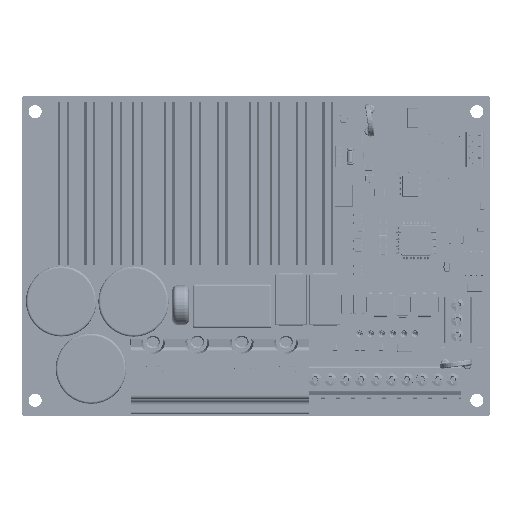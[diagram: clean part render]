
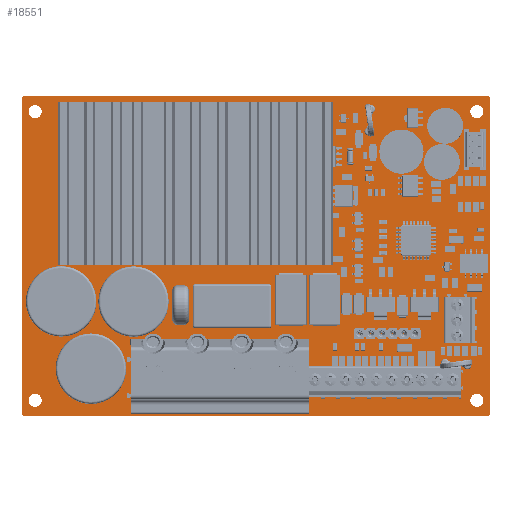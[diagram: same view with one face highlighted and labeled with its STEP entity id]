
A CAD part, top view. The second image highlights one B-rep face of the part: STEP entity #18551.
In plain terms, the highlighted planar face has unit normal (0, 0, 1).
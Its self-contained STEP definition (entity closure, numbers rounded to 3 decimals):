
#18551=ADVANCED_FACE('',(#38407,#38408,#38409,#38410,#38411,#38412,#38413),#38414,.T.);
#38407=FACE_BOUND('',#85328,.T.);
#38408=FACE_BOUND('',#85329,.T.);
#38409=FACE_BOUND('',#85330,.T.);
#38410=FACE_BOUND('',#85331,.T.);
#38411=FACE_BOUND('',#85332,.T.);
#38412=FACE_BOUND('',#85333,.T.);
#38413=FACE_OUTER_BOUND('',#85334,.T.);
#38414=PLANE('',#85335);
#85328=EDGE_LOOP('',(#128366));
#85329=EDGE_LOOP('',(#128367));
#85330=EDGE_LOOP('',(#128368));
#85331=EDGE_LOOP('',(#128369));
#85332=EDGE_LOOP('',(#128370));
#85333=EDGE_LOOP('',(#128371));
#85334=EDGE_LOOP('',(#128372,#128373,#128374,#128375,#128376,#128377,#128378,#128379));
#85335=AXIS2_PLACEMENT_3D('',#128380,#128381,#128382);
#128366=ORIENTED_EDGE('',*,*,#174274,.T.);
#128367=ORIENTED_EDGE('',*,*,#174277,.T.);
#128368=ORIENTED_EDGE('',*,*,#174280,.T.);
#128369=ORIENTED_EDGE('',*,*,#174283,.T.);
#128370=ORIENTED_EDGE('',*,*,#174286,.T.);
#128371=ORIENTED_EDGE('',*,*,#174289,.T.);
#128372=ORIENTED_EDGE('',*,*,#174292,.T.);
#128373=ORIENTED_EDGE('',*,*,#174293,.T.);
#128374=ORIENTED_EDGE('',*,*,#174294,.T.);
#128375=ORIENTED_EDGE('',*,*,#174295,.T.);
#128376=ORIENTED_EDGE('',*,*,#174296,.T.);
#128377=ORIENTED_EDGE('',*,*,#174297,.T.);
#128378=ORIENTED_EDGE('',*,*,#174298,.T.);
#128379=ORIENTED_EDGE('',*,*,#174299,.T.);
#128380=CARTESIAN_POINT('',(78.5,61.0,1.6));
#128381=DIRECTION('',(0.0,0.0,1.0));
#128382=DIRECTION('',(1.0,0.0,0.0));
#174274=EDGE_CURVE('',#205108,#205108,#205109,.T.);
#174277=EDGE_CURVE('',#205113,#205113,#205114,.T.);
#174280=EDGE_CURVE('',#205118,#205118,#205119,.T.);
#174283=EDGE_CURVE('',#205123,#205123,#205124,.T.);
#174286=EDGE_CURVE('',#205128,#205128,#205129,.T.);
#174289=EDGE_CURVE('',#205133,#205133,#205134,.T.);
#174292=EDGE_CURVE('',#205138,#205139,#205140,.T.);
#174293=EDGE_CURVE('',#205139,#205141,#205142,.T.);
#174294=EDGE_CURVE('',#205141,#205143,#205144,.T.);
#174295=EDGE_CURVE('',#205143,#205145,#205146,.T.);
#174296=EDGE_CURVE('',#205145,#205147,#205148,.T.);
#174297=EDGE_CURVE('',#205147,#205149,#205150,.T.);
#174298=EDGE_CURVE('',#205149,#205151,#205152,.T.);
#174299=EDGE_CURVE('',#205151,#205138,#205153,.T.);
#205108=VERTEX_POINT('',#255368);
#205109=CIRCLE('',#255369,1.5);
#205113=VERTEX_POINT('',#255373);
#205114=CIRCLE('',#255374,1.5);
#205118=VERTEX_POINT('',#255378);
#205119=CIRCLE('',#255379,1.5);
#205123=VERTEX_POINT('',#255383);
#205124=CIRCLE('',#255384,1.5);
#205128=VERTEX_POINT('',#255388);
#205129=CIRCLE('',#255389,1.5);
#205133=VERTEX_POINT('',#255393);
#205134=CIRCLE('',#255394,1.5);
#205138=VERTEX_POINT('',#255398);
#205139=VERTEX_POINT('',#255399);
#205140=LINE('',#255400,#255401);
#205141=VERTEX_POINT('',#255402);
#205142=LINE('',#255403,#255404);
#205143=VERTEX_POINT('',#255405);
#205144=LINE('',#255406,#255407);
#205145=VERTEX_POINT('',#255408);
#205146=LINE('',#255409,#255410);
#205147=VERTEX_POINT('',#255411);
#205148=LINE('',#255412,#255413);
#205149=VERTEX_POINT('',#255414);
#205150=LINE('',#255415,#255416);
#205151=VERTEX_POINT('',#255417);
#205152=LINE('',#255418,#255419);
#205153=LINE('',#255420,#255421);
#255368=CARTESIAN_POINT('',(46.8,77.5,1.6));
#255369=AXIS2_PLACEMENT_3D('',#297992,#297993,#297994);
#255373=CARTESIAN_POINT('',(79.2,77.5,1.6));
#255374=AXIS2_PLACEMENT_3D('',#297998,#297999,#298000);
#255378=CARTESIAN_POINT('',(127.5,28.0,1.6));
#255379=AXIS2_PLACEMENT_3D('',#298004,#298005,#298006);
#255383=CARTESIAN_POINT('',(127.5,94.0,1.6));
#255384=AXIS2_PLACEMENT_3D('',#298010,#298011,#298012);
#255388=CARTESIAN_POINT('',(26.5,28.0,1.6));
#255389=AXIS2_PLACEMENT_3D('',#298016,#298017,#298018);
#255393=CARTESIAN_POINT('',(26.5,94.0,1.6));
#255394=AXIS2_PLACEMENT_3D('',#298022,#298023,#298024);
#255398=CARTESIAN_POINT('',(25.254,24.5,1.6));
#255399=CARTESIAN_POINT('',(131.746,24.5,1.6));
#255400=CARTESIAN_POINT('',(78.5,24.5,1.6));
#255401=VECTOR('',#298028,1.0);
#255402=CARTESIAN_POINT('',(132.0,24.754,1.6));
#255403=CARTESIAN_POINT('',(131.873,24.627,1.6));
#255404=VECTOR('',#298029,1.0);
#255405=CARTESIAN_POINT('',(132.0,97.246,1.6));
#255406=CARTESIAN_POINT('',(132.0,61.0,1.6));
#255407=VECTOR('',#298030,1.0);
#255408=CARTESIAN_POINT('',(131.746,97.5,1.6));
#255409=CARTESIAN_POINT('',(131.873,97.373,1.6));
#255410=VECTOR('',#298031,1.0);
#255411=CARTESIAN_POINT('',(25.254,97.5,1.6));
#255412=CARTESIAN_POINT('',(78.5,97.5,1.6));
#255413=VECTOR('',#298032,1.0);
#255414=CARTESIAN_POINT('',(25.0,97.246,1.6));
#255415=CARTESIAN_POINT('',(25.127,97.373,1.6));
#255416=VECTOR('',#298033,1.0);
#255417=CARTESIAN_POINT('',(25.0,24.754,1.6));
#255418=CARTESIAN_POINT('',(25.0,61.0,1.6));
#255419=VECTOR('',#298034,1.0);
#255420=CARTESIAN_POINT('',(25.127,24.627,1.6));
#255421=VECTOR('',#298035,1.0);
#297992=CARTESIAN_POINT('',(48.3,77.5,1.6));
#297993=DIRECTION('',(-0.0,0.0,-1.0));
#297994=DIRECTION('',(-1.0,0.0,0.0));
#297998=CARTESIAN_POINT('',(80.7,77.5,1.6));
#297999=DIRECTION('',(-0.0,0.0,-1.0));
#298000=DIRECTION('',(-1.0,0.0,0.0));
#298004=CARTESIAN_POINT('',(129.0,28.0,1.6));
#298005=DIRECTION('',(-0.0,0.0,-1.0));
#298006=DIRECTION('',(-1.0,0.0,0.0));
#298010=CARTESIAN_POINT('',(129.0,94.0,1.6));
#298011=DIRECTION('',(-0.0,0.0,-1.0));
#298012=DIRECTION('',(-1.0,0.0,0.0));
#298016=CARTESIAN_POINT('',(28.0,28.0,1.6));
#298017=DIRECTION('',(-0.0,0.0,-1.0));
#298018=DIRECTION('',(-1.0,0.0,0.0));
#298022=CARTESIAN_POINT('',(28.0,94.0,1.6));
#298023=DIRECTION('',(-0.0,0.0,-1.0));
#298024=DIRECTION('',(-1.0,0.0,0.0));
#298028=DIRECTION('',(1.0,0.0,0.0));
#298029=DIRECTION('',(0.707,0.707,0.0));
#298030=DIRECTION('',(0.0,1.0,0.0));
#298031=DIRECTION('',(-0.707,0.707,0.0));
#298032=DIRECTION('',(-1.0,0.0,0.0));
#298033=DIRECTION('',(-0.707,-0.707,0.0));
#298034=DIRECTION('',(0.0,-1.0,0.0));
#298035=DIRECTION('',(0.707,-0.707,0.0));
